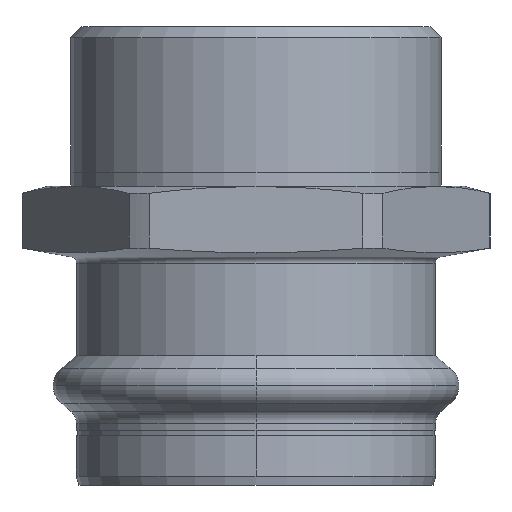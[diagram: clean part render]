
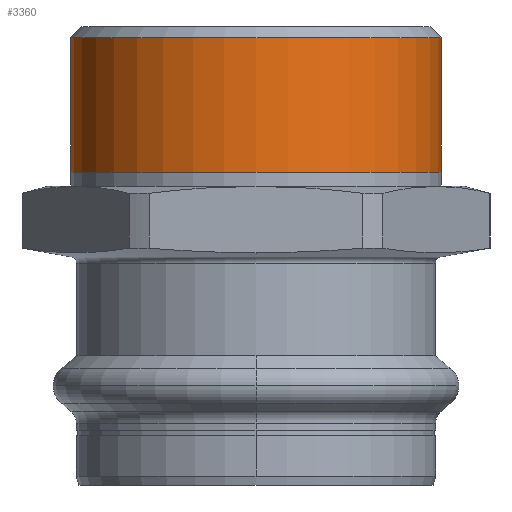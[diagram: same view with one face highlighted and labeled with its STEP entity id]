
A CAD part, front view. The second image highlights one B-rep face of the part: STEP entity #3360.
In plain terms, the highlighted cylindrical face has radius 29.807 mm (diameter 59.614 mm), a partial arc.
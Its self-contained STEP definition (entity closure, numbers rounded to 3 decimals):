
#2050=CARTESIAN_POINT('',(34.396,49.061,11.5));
#2060=DIRECTION('',(0.,0.,1.));
#2070=DIRECTION('',(1.,0.,0.));
#2080=AXIS2_PLACEMENT_3D('',#2050,#2060,#2070);
#2090=CYLINDRICAL_SURFACE('',#2080,29.807);
#2870=CARTESIAN_POINT('',(4.589,49.061,13.8));
#2880=VERTEX_POINT('',#2870);
#2910=CARTESIAN_POINT('',(34.396,49.061,13.8));
#2920=DIRECTION('',(0.,0.,1.));
#2930=DIRECTION('',(1.,0.,0.));
#2940=AXIS2_PLACEMENT_3D('',#2910,#2920,#2930);
#2950=CIRCLE('',#2940,29.807);
#2960=CARTESIAN_POINT('',(64.203,49.061,13.8));
#2970=VERTEX_POINT('',#2960);
#2980=EDGE_CURVE('',#2880,#2970,#2950,.T.);
#3100=CARTESIAN_POINT('',(4.589,49.061,11.5));
#3110=DIRECTION('',(0.,0.,1.));
#3120=VECTOR('',#3110,1.);
#3130=LINE('',#3100,#3120);
#3140=CARTESIAN_POINT('',(4.589,49.061,35.4));
#3150=VERTEX_POINT('',#3140);
#3160=EDGE_CURVE('',#2880,#3150,#3130,.T.);
#3170=ORIENTED_EDGE('',*,*,#3160,.F.);
#3180=CARTESIAN_POINT('',(34.396,49.061,35.4));
#3190=DIRECTION('',(0.,0.,1.));
#3200=DIRECTION('',(1.,0.,0.));
#3210=AXIS2_PLACEMENT_3D('',#3180,#3190,#3200);
#3220=CIRCLE('',#3210,29.807);
#3230=CARTESIAN_POINT('',(64.203,49.061,35.4));
#3240=VERTEX_POINT('',#3230);
#3250=EDGE_CURVE('',#3150,#3240,#3220,.T.);
#3260=ORIENTED_EDGE('',*,*,#3250,.F.);
#3270=CARTESIAN_POINT('',(64.203,49.061,11.5));
#3280=DIRECTION('',(0.,0.,1.));
#3290=VECTOR('',#3280,1.);
#3300=LINE('',#3270,#3290);
#3310=EDGE_CURVE('',#2970,#3240,#3300,.T.);
#3320=ORIENTED_EDGE('',*,*,#3310,.T.);
#3330=ORIENTED_EDGE('',*,*,#2980,.T.);
#3340=EDGE_LOOP('',(#3330,#3320,#3260,#3170));
#3350=FACE_OUTER_BOUND('',#3340,.T.);
#3360=ADVANCED_FACE('2.347008-11_791760',(#3350),#2090,.T.);
